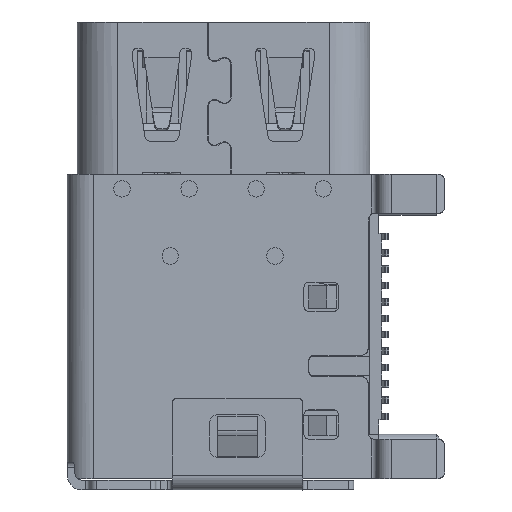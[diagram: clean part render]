
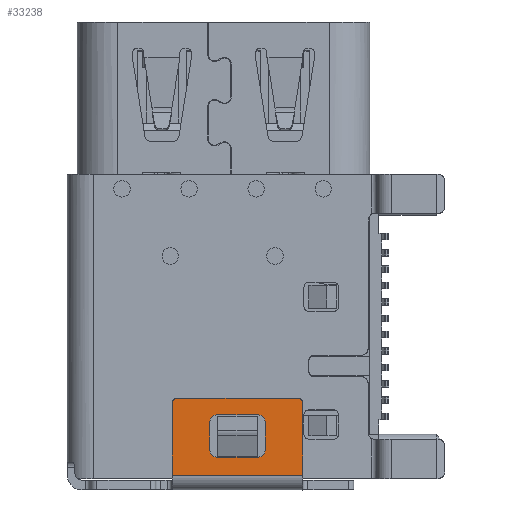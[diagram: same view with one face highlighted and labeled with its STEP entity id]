
A CAD part, left-side view. The second image highlights one B-rep face of the part: STEP entity #33238.
In plain terms, the highlighted planar face has unit normal (-1, 0, 0).
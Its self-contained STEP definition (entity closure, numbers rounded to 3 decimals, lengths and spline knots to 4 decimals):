
#5959=DIRECTION('',(0.,-1.,0.));
#5960=VECTOR('',#5959,3.7);
#5961=CARTESIAN_POINT('',(-2.2901,-4.8715,
-40.0152));
#5962=LINE('',#5961,#5960);
#5963=CARTESIAN_POINT('',(-2.2901,-8.5715,
-40.1652));
#5964=DIRECTION('',(1.,0.,0.));
#5965=DIRECTION('',(0.,0.,1.));
#5966=AXIS2_PLACEMENT_3D('',#5963,#5964,#5965);
#5968=DIRECTION('',(0.,0.,-1.));
#5969=VECTOR('',#5968,2.1998);
#5970=CARTESIAN_POINT('',(-2.2901,-8.7215,
-40.1652));
#5971=LINE('',#5970,#5969);
#5972=DIRECTION('',(0.,0.,1.));
#5973=VECTOR('',#5972,2.1998);
#5974=CARTESIAN_POINT('',(-2.2901,-4.7215,
-42.365));
#5975=LINE('',#5974,#5973);
#5976=CARTESIAN_POINT('',(-2.2901,-4.8715,
-40.1652));
#5977=DIRECTION('',(1.,0.,0.));
#5978=DIRECTION('',(0.,1.,0.));
#5979=AXIS2_PLACEMENT_3D('',#5976,#5977,#5978);
#5981=CARTESIAN_POINT('',(-2.2901,-6.1215,
-40.7652));
#5982=DIRECTION('',(-1.,0.,0.));
#5983=DIRECTION('',(0.,0.,1.));
#5984=AXIS2_PLACEMENT_3D('',#5981,#5982,#5983);
#5986=CARTESIAN_POINT('',(-2.2901,-6.1215,
-41.5652));
#5987=DIRECTION('',(-1.,0.,0.));
#5988=DIRECTION('',(0.,1.,0.));
#5989=AXIS2_PLACEMENT_3D('',#5986,#5987,#5988);
#5991=CARTESIAN_POINT('',(-2.2901,-7.3215,
-41.5652));
#5992=DIRECTION('',(-1.,0.,0.));
#5993=DIRECTION('',(0.,0.,-1.));
#5994=AXIS2_PLACEMENT_3D('',#5991,#5992,#5993);
#5996=CARTESIAN_POINT('',(-2.2901,-7.3215,
-40.7652));
#5997=DIRECTION('',(-1.,0.,0.));
#5998=DIRECTION('',(0.,-1.,0.));
#5999=AXIS2_PLACEMENT_3D('',#5996,#5997,#5998);
#6071=DIRECTION('',(0.,1.,0.));
#6072=VECTOR('',#6071,1.2);
#6073=CARTESIAN_POINT('',(-2.2901,-7.3215,
-41.8152));
#6074=LINE('',#6073,#6072);
#6087=DIRECTION('',(0.,0.,-1.));
#6088=VECTOR('',#6087,0.8);
#6089=CARTESIAN_POINT('',(-2.2901,-7.5715,
-40.7652));
#6090=LINE('',#6089,#6088);
#6103=DIRECTION('',(0.,-1.,0.));
#6104=VECTOR('',#6103,1.2);
#6105=CARTESIAN_POINT('',(-2.2901,-6.1215,
-40.5152));
#6106=LINE('',#6105,#6104);
#6119=DIRECTION('',(0.,0.,1.));
#6120=VECTOR('',#6119,0.8);
#6121=CARTESIAN_POINT('',(-2.2901,-5.8715,
-41.5652));
#6122=LINE('',#6121,#6120);
#6131=DIRECTION('',(0.,-1.,0.));
#6132=VECTOR('',#6131,4.);
#6133=CARTESIAN_POINT('',(-2.2901,-4.7215,
-42.365));
#6134=LINE('',#6133,#6132);
#21563=CARTESIAN_POINT('',(-2.2901,-8.7215,
-42.365));
#21564=VERTEX_POINT('',#21563);
#21567=CARTESIAN_POINT('',(-2.2901,-4.7215,
-42.365));
#21568=VERTEX_POINT('',#21567);
#21569=CARTESIAN_POINT('',(-2.2901,-4.7215,
-40.1652));
#21570=VERTEX_POINT('',#21569);
#21573=CARTESIAN_POINT('',(-2.2901,-4.8715,
-40.0152));
#21574=CARTESIAN_POINT('',(-2.2901,-8.5715,
-40.0152));
#21575=VERTEX_POINT('',#21573);
#21576=VERTEX_POINT('',#21574);
#21577=CARTESIAN_POINT('',(-2.2901,-8.7215,
-40.1652));
#21578=VERTEX_POINT('',#21577);
#21579=CARTESIAN_POINT('',(-2.2901,-6.1215,
-40.5152));
#21580=CARTESIAN_POINT('',(-2.2901,-7.3215,
-40.5152));
#21581=VERTEX_POINT('',#21579);
#21582=VERTEX_POINT('',#21580);
#21583=CARTESIAN_POINT('',(-2.2901,-5.8715,
-40.7652));
#21584=VERTEX_POINT('',#21583);
#21585=CARTESIAN_POINT('',(-2.2901,-5.8715,
-41.5652));
#21586=VERTEX_POINT('',#21585);
#21587=CARTESIAN_POINT('',(-2.2901,-6.1215,
-41.8152));
#21588=VERTEX_POINT('',#21587);
#21589=CARTESIAN_POINT('',(-2.2901,-7.3215,
-41.8152));
#21590=VERTEX_POINT('',#21589);
#21591=CARTESIAN_POINT('',(-2.2901,-7.5715,
-41.5652));
#21592=VERTEX_POINT('',#21591);
#21593=CARTESIAN_POINT('',(-2.2901,-7.5715,
-40.7652));
#21594=VERTEX_POINT('',#21593);
#33202=CARTESIAN_POINT('',(-2.2901,-9.8215,
-42.4652));
#33203=DIRECTION('',(1.,0.,0.));
#33204=DIRECTION('',(0.,-1.,0.));
#33205=AXIS2_PLACEMENT_3D('',#33202,#33203,#33204);
#33206=PLANE('',#33205);
#33208=ORIENTED_EDGE('',*,*,#33207,.T.);
#33210=ORIENTED_EDGE('',*,*,#33209,.T.);
#33212=ORIENTED_EDGE('',*,*,#33211,.T.);
#33214=ORIENTED_EDGE('',*,*,#33213,.F.);
#33215=ORIENTED_EDGE('',*,*,#33192,.T.);
#33217=ORIENTED_EDGE('',*,*,#33216,.T.);
#33218=EDGE_LOOP('',(#33208,#33210,#33212,#33214,#33215,#33217));
#33219=FACE_OUTER_BOUND('',#33218,.F.);
#33221=ORIENTED_EDGE('',*,*,#33220,.F.);
#33223=ORIENTED_EDGE('',*,*,#33222,.T.);
#33225=ORIENTED_EDGE('',*,*,#33224,.F.);
#33227=ORIENTED_EDGE('',*,*,#33226,.T.);
#33229=ORIENTED_EDGE('',*,*,#33228,.F.);
#33231=ORIENTED_EDGE('',*,*,#33230,.T.);
#33233=ORIENTED_EDGE('',*,*,#33232,.F.);
#33235=ORIENTED_EDGE('',*,*,#33234,.T.);
#33236=EDGE_LOOP('',(#33221,#33223,#33225,#33227,#33229,#33231,#33233,#33235));
#33237=FACE_BOUND('',#33236,.F.);
#33238=ADVANCED_FACE('',(#33219,#33237),#33206,.F.);
#5967=CIRCLE('',#5966,0.15);
#5980=CIRCLE('',#5979,0.15);
#5985=CIRCLE('',#5984,0.25);
#5990=CIRCLE('',#5989,0.25);
#5995=CIRCLE('',#5994,0.25);
#6000=CIRCLE('',#5999,0.25);
#33192=EDGE_CURVE('',#21568,#21570,#5975,.T.);
#33207=EDGE_CURVE('',#21575,#21576,#5962,.T.);
#33209=EDGE_CURVE('',#21576,#21578,#5967,.T.);
#33211=EDGE_CURVE('',#21578,#21564,#5971,.T.);
#33213=EDGE_CURVE('',#21568,#21564,#6134,.T.);
#33216=EDGE_CURVE('',#21570,#21575,#5980,.T.);
#33220=EDGE_CURVE('',#21581,#21582,#6106,.T.);
#33222=EDGE_CURVE('',#21581,#21584,#5985,.T.);
#33224=EDGE_CURVE('',#21586,#21584,#6122,.T.);
#33226=EDGE_CURVE('',#21586,#21588,#5990,.T.);
#33228=EDGE_CURVE('',#21590,#21588,#6074,.T.);
#33230=EDGE_CURVE('',#21590,#21592,#5995,.T.);
#33232=EDGE_CURVE('',#21594,#21592,#6090,.T.);
#33234=EDGE_CURVE('',#21594,#21582,#6000,.T.);
